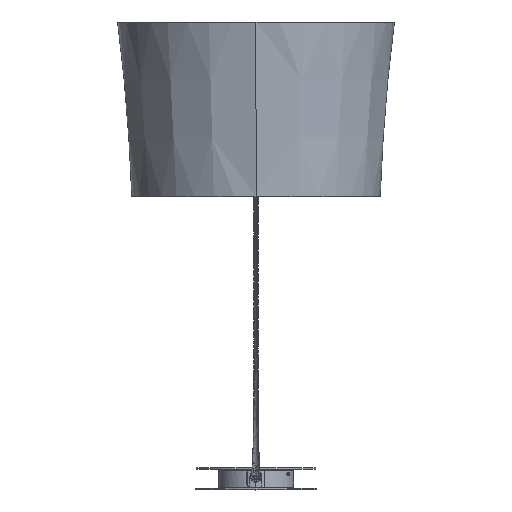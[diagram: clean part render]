
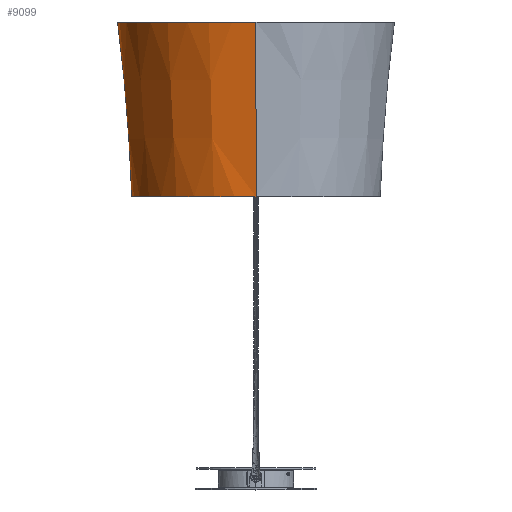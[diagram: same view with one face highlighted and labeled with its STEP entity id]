
A CAD part, top view. The second image highlights one B-rep face of the part: STEP entity #9099.
In plain terms, the highlighted conical face has half-angle 4.65 degrees and reference radius 230 mm.
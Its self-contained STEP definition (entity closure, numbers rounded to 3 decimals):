
#413 = CARTESIAN_POINT ( 'NONE',  ( -118.434, 824.373, 1731.161 ) ) ;
#1358 = VERTEX_POINT ( 'NONE', #413 ) ;
#1499 = DIRECTION ( 'NONE',  ( 0., 1., 0. ) ) ;
#2228 = EDGE_CURVE ( 'NONE', #7968, #5857, #6242, .T. ) ;
#2546 = FACE_OUTER_BOUND ( 'NONE', #8625, .T. ) ;
#2547 = DIRECTION ( 'NONE',  ( 0., 1., 0. ) ) ;
#2682 = DIRECTION ( 'NONE',  ( 0., 1., 0. ) ) ;
#2715 = DIRECTION ( 'NONE',  ( 0.001, -0.997, 0.081 ) ) ;
#2716 = VECTOR ( 'NONE', #2715, 1000. ) ;
#2771 = DIRECTION ( 'NONE',  ( 0., 0., 1. ) ) ;
#2848 = ORIENTED_EDGE ( 'NONE', *, *, #9137, .T. ) ;
#2917 = VECTOR ( 'NONE', #5445, 1000. ) ;
#2959 = EDGE_CURVE ( 'NONE', #5857, #7471, #4557, .T. ) ;
#3387 = CIRCLE ( 'NONE', #6978, 230. ) ;
#3392 = LINE ( 'NONE', #6293, #2917 ) ;
#3779 = ORIENTED_EDGE ( 'NONE', *, *, #2959, .T. ) ;
#3792 = CARTESIAN_POINT ( 'NONE',  ( -118.434, 534.373, 1707.573 ) ) ;
#4557 = CIRCLE ( 'NONE', #6058, 206.412 ) ;
#5020 = ORIENTED_EDGE ( 'NONE', *, *, #2228, .T. ) ;
#5087 = ORIENTED_EDGE ( 'NONE', *, *, #7944, .F. ) ;
#5332 = AXIS2_PLACEMENT_3D ( 'NONE', #7330, #2682, #2771 ) ;
#5445 = DIRECTION ( 'NONE',  ( 0., 0.997, 0.081 ) ) ;
#5809 = DIRECTION ( 'NONE',  ( 0., 0., 1. ) ) ;
#5857 = VERTEX_POINT ( 'NONE', #9033 ) ;
#6058 = AXIS2_PLACEMENT_3D ( 'NONE', #8456, #2547, #6153 ) ;
#6153 = DIRECTION ( 'NONE',  ( 0., 0., 1. ) ) ;
#6242 = LINE ( 'NONE', #6993, #2716 ) ;
#6293 = CARTESIAN_POINT ( 'NONE',  ( -118.434, 824.373, 1731.161 ) ) ;
#6978 = AXIS2_PLACEMENT_3D ( 'NONE', #8671, #1499, #5809 ) ;
#6993 = CARTESIAN_POINT ( 'NONE',  ( -122.036, 534.373, 1294.78 ) ) ;
#7330 = CARTESIAN_POINT ( 'NONE',  ( -118.434, 824.373, 1501.161 ) ) ;
#7471 = VERTEX_POINT ( 'NONE', #3792 ) ;
#7944 = EDGE_CURVE ( 'NONE', #7968, #1358, #3387, .T. ) ;
#7968 = VERTEX_POINT ( 'NONE', #8110 ) ;
#8110 = CARTESIAN_POINT ( 'NONE',  ( -122.448, 824.373, 1271.196 ) ) ;
#8180 = CONICAL_SURFACE ( 'NONE', #5332, 230., 0.081 ) ;
#8456 = CARTESIAN_POINT ( 'NONE',  ( -118.434, 534.373, 1501.161 ) ) ;
#8625 = EDGE_LOOP ( 'NONE', ( #3779, #2848, #5087, #5020 ) ) ;
#8671 = CARTESIAN_POINT ( 'NONE',  ( -118.434, 824.373, 1501.161 ) ) ;
#9033 = CARTESIAN_POINT ( 'NONE',  ( -122.036, 534.373, 1294.78 ) ) ;
#9099 = ADVANCED_FACE ( 'NONE', ( #2546 ), #8180, .T. ) ;
#9137 = EDGE_CURVE ( 'NONE', #7471, #1358, #3392, .T. ) ;
